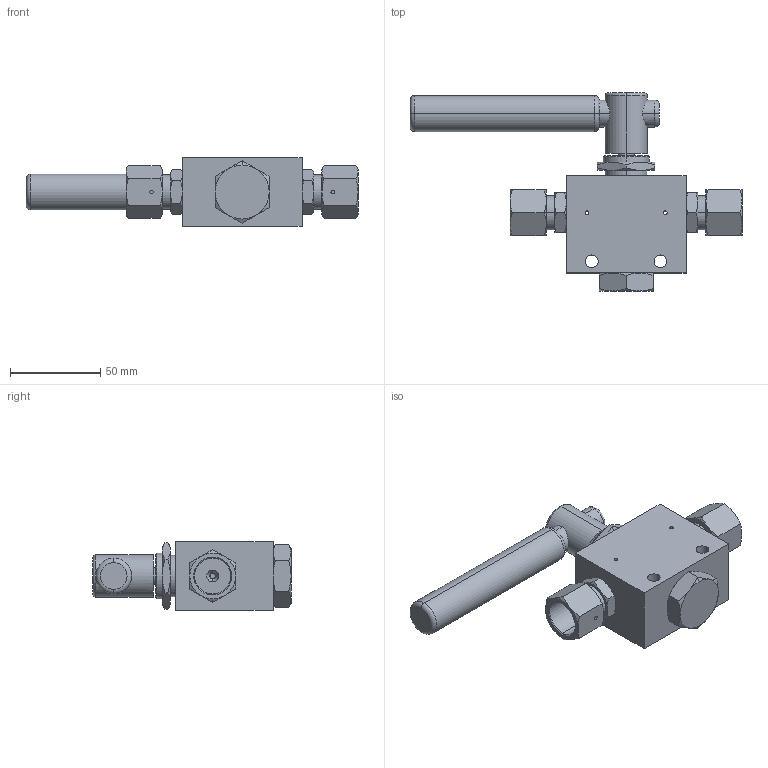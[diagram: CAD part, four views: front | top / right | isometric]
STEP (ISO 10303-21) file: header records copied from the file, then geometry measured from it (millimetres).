
FILE_DESCRIPTION (( 'STEP AP203' ), '1' );
FILE_NAME ('BV6003S06-2-90.STEP', '2022-04-12T10:13:30', ( '' ), ( '' ), 'SwSTEP 2.0', 'SolidWorks 2020', '' );
FILE_SCHEMA (( 'CONFIG_CONTROL_DESIGN' ));
Length unit declared in the file: millimetre
Products named in the file (1): BV6003S06-2-90
Bounding box: 184.33 x 110 x 38 mm (x, y, z)
Volume: 216508.8 mm3; surface area: 40200.6 mm2
Topology: 1 solids, 1 shells, 208 faces, 456 edges, 266 vertices
Faces by surface type: cone 98, plane 60, cylinder 42, torus 8
Entity records: 6441 total; most frequent: CARTESIAN_POINT 1979, ORIENTED_EDGE 904, DIRECTION 902, EDGE_CURVE 452, AXIS2_PLACEMENT_3D 393, VERTEX_POINT 266, EDGE_LOOP 240, ADVANCED_FACE 208
